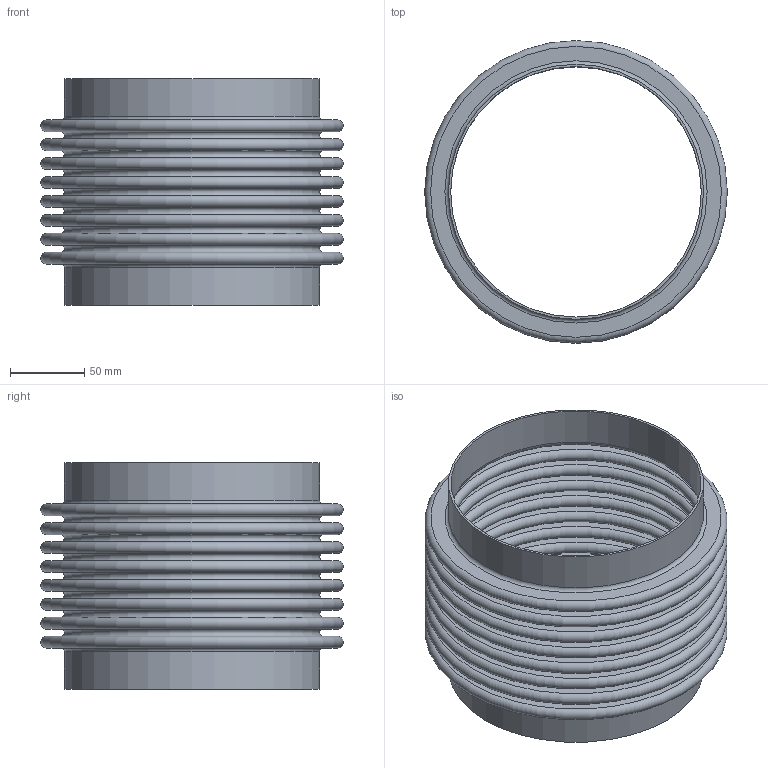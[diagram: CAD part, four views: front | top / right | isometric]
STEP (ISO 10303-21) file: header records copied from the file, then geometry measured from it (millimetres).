
FILE_DESCRIPTION(/* description */ ('STOCK BELLOWS: U.S-6-8-300S, 6.625 I.D., 8.000 O.D., 2 PLY, 22 GA (0.030 THICK), 8 CONS., 0.500 PITCH, 1.000 TANGENT. '),/* implementation_level */ '2;1');
FILE_NAME(/* name */ 'STOCK BELLOW - US-6-8-300S.stp',/* time_stamp */ '2026-07-21T13:26:57-05:00',/* author */ ('KennethB'),/* organization */ (''),/* preprocessor_version */ 'ST-DEVELOPER v20.1',/* originating_system */ 'Autodesk Inventor 2026',/* authorisation */ '');
FILE_SCHEMA (('AUTOMOTIVE_DESIGN { 1 0 10303 214 3 1 1 }'));
Length unit declared in the file: inch
Products named in the file (1): STOCK BELLOW - US-6-8-300S
Bounding box: 203.2 x 203.2 x 152.4 mm (x, y, z)
Volume: 319648.4 mm3; surface area: 424363.8 mm2
Topology: 3 solids, 3 shells, 76 faces, 114 edges, 77 vertices
Faces by surface type: plane 38, torus 34, cylinder 4
Full cylindrical faces by diameter (mm): 168.275 x2, 171.323 x2
Entity records: 1814 total; most frequent: DIRECTION 378, CARTESIAN_POINT 268, ORIENTED_EDGE 228, AXIS2_PLACEMENT_3D 187, EDGE_LOOP 114, EDGE_CURVE 114, CIRCLE 110, FACE_OUTER_BOUND 76
